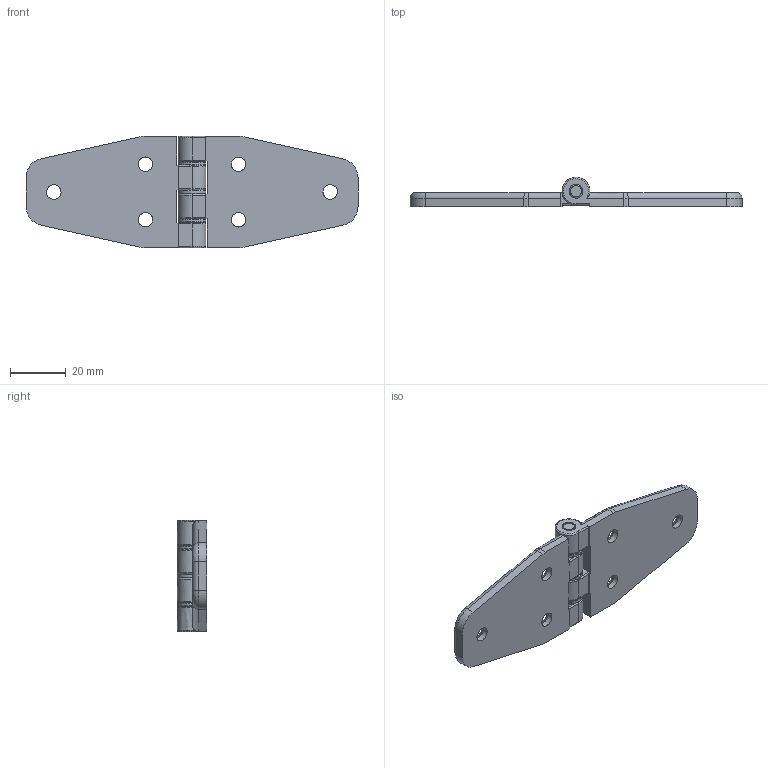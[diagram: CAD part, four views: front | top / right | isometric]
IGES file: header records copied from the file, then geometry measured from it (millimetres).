
Global section: file name: DR_HC40120; native system: Autodesk Inventor 2015; preprocessor: unknown; author: user; date: 20170823.103742; units: millimetre
Bounding box: 119.5 x 10.5 x 40 mm (x, y, z)
Volume: 19677.1 mm3; surface area: 11708.5 mm2
Topology: 3 solids, 3 shells, 117 faces, 319 edges, 214 vertices
Faces by surface type: bspline 117
